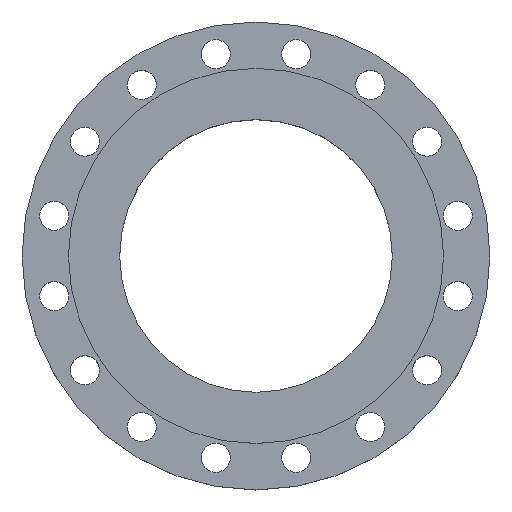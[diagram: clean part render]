
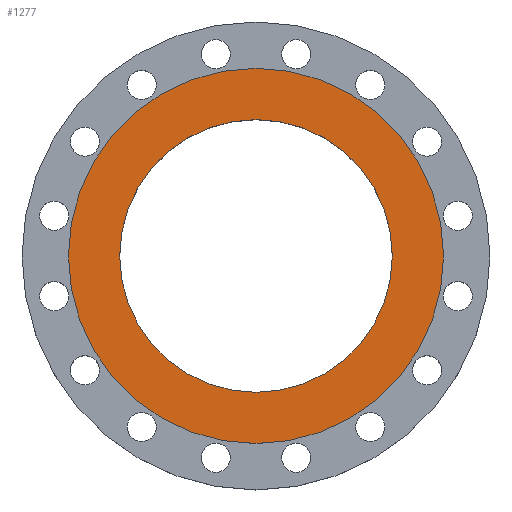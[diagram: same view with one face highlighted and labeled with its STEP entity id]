
A CAD part, top view. The second image highlights one B-rep face of the part: STEP entity #1277.
In plain terms, the highlighted planar face has unit normal (0, 0, 1).
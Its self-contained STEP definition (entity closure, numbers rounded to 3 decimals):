
#50 = CIRCLE ( 'NONE', #1292, 169. ) ;
#72 = CARTESIAN_POINT ( 'NONE',  ( 169., 0., 8.8 ) ) ;
#87 = CARTESIAN_POINT ( 'NONE',  ( -169., 0., 8.8 ) ) ;
#265 = DIRECTION ( 'NONE',  ( 1., 0., 0. ) ) ;
#267 = DIRECTION ( 'NONE',  ( 0., 0., 1. ) ) ;
#268 = CARTESIAN_POINT ( 'NONE',  ( 0., 0., 8.8 ) ) ;
#280 = EDGE_CURVE ( 'NONE', #1668, #1652, #50, .T. ) ;
#360 = CARTESIAN_POINT ( 'NONE',  ( 232.5, 0., 8.8 ) ) ;
#469 = AXIS2_PLACEMENT_3D ( 'NONE', #482, #481, #480 ) ;
#480 = DIRECTION ( 'NONE',  ( 1., 0., 0. ) ) ;
#481 = DIRECTION ( 'NONE',  ( 0., 0., 1. ) ) ;
#482 = CARTESIAN_POINT ( 'NONE',  ( 232.5, 0., 8.8 ) ) ;
#483 = PLANE ( 'NONE',  #469 ) ;
#484 = FACE_BOUND ( 'NONE', #1647, .T. ) ;
#485 = FACE_OUTER_BOUND ( 'NONE', #1593, .T. ) ;
#552 = CARTESIAN_POINT ( 'NONE',  ( -232.5, 0., 8.8 ) ) ;
#629 = DIRECTION ( 'NONE',  ( 1., 0., 0. ) ) ;
#630 = DIRECTION ( 'NONE',  ( 0., 0., 1. ) ) ;
#631 = CARTESIAN_POINT ( 'NONE',  ( 0., 0., 8.8 ) ) ;
#671 = DIRECTION ( 'NONE',  ( 1., 0., 0. ) ) ;
#672 = DIRECTION ( 'NONE',  ( 0., 0., 1. ) ) ;
#673 = CARTESIAN_POINT ( 'NONE',  ( 0., 0., 8.8 ) ) ;
#847 = EDGE_CURVE ( 'NONE', #1104, #1399, #1473, .T. ) ;
#888 = EDGE_CURVE ( 'NONE', #1652, #1668, #1552, .T. ) ;
#918 = DIRECTION ( 'NONE',  ( 1., 0., 0. ) ) ;
#919 = DIRECTION ( 'NONE',  ( 0., 0., 1. ) ) ;
#920 = CARTESIAN_POINT ( 'NONE',  ( 0., 0., 8.8 ) ) ;
#1104 = VERTEX_POINT ( 'NONE', #552 ) ;
#1277 = ADVANCED_FACE ( 'NONE', ( #485, #484 ), #483, .T. ) ;
#1292 = AXIS2_PLACEMENT_3D ( 'NONE', #920, #919, #918 ) ;
#1399 = VERTEX_POINT ( 'NONE', #360 ) ;
#1473 = CIRCLE ( 'NONE', #1474, 232.5 ) ;
#1474 = AXIS2_PLACEMENT_3D ( 'NONE', #673, #672, #671 ) ;
#1517 = EDGE_CURVE ( 'NONE', #1399, #1104, #1646, .T. ) ;
#1552 = CIRCLE ( 'NONE', #1575, 169. ) ;
#1575 = AXIS2_PLACEMENT_3D ( 'NONE', #631, #630, #629 ) ;
#1593 = EDGE_LOOP ( 'NONE', ( #1705, #1706 ) ) ;
#1635 = AXIS2_PLACEMENT_3D ( 'NONE', #268, #267, #265 ) ;
#1646 = CIRCLE ( 'NONE', #1635, 232.5 ) ;
#1647 = EDGE_LOOP ( 'NONE', ( #1707, #1708 ) ) ;
#1652 = VERTEX_POINT ( 'NONE', #87 ) ;
#1668 = VERTEX_POINT ( 'NONE', #72 ) ;
#1705 = ORIENTED_EDGE ( 'NONE', *, *, #1517, .T. ) ;
#1706 = ORIENTED_EDGE ( 'NONE', *, *, #847, .T. ) ;
#1707 = ORIENTED_EDGE ( 'NONE', *, *, #280, .F. ) ;
#1708 = ORIENTED_EDGE ( 'NONE', *, *, #888, .F. ) ;
